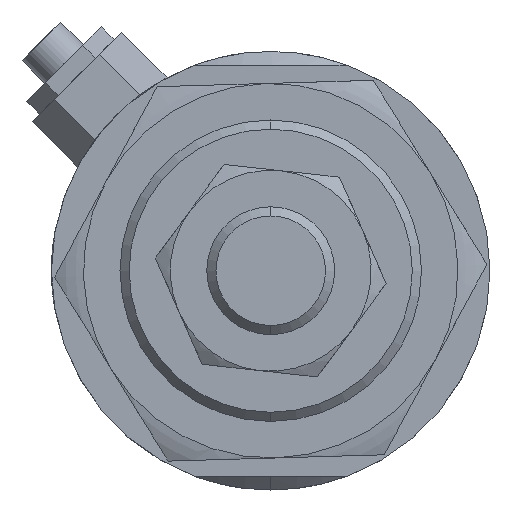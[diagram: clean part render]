
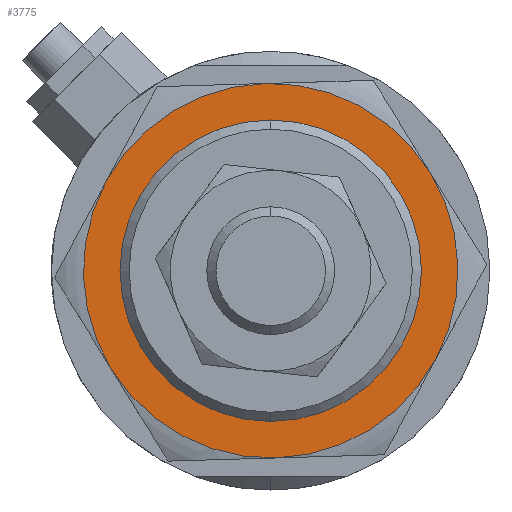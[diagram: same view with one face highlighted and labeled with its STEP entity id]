
A CAD part, left-side view. The second image highlights one B-rep face of the part: STEP entity #3775.
In plain terms, the highlighted planar face has unit normal (-1, 0, 0) as drawn and (0, 0, -1) by its records, which use the part's own axes.
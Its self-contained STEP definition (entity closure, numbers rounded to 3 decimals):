
#47 = EDGE_CURVE ( 'NONE', #3329, #3148, #2449, .T. ) ;
#54 = ORIENTED_EDGE ( 'NONE', *, *, #4624, .F. ) ;
#179 = EDGE_CURVE ( 'NONE', #4548, #3329, #2816, .T. ) ;
#333 = DIRECTION ( 'NONE',  ( 1., 0., 0. ) ) ;
#542 = ORIENTED_EDGE ( 'NONE', *, *, #4381, .T. ) ;
#544 = DIRECTION ( 'NONE',  ( 0., 0., 1. ) ) ;
#577 = DIRECTION ( 'NONE',  ( 0., 0., 1. ) ) ;
#597 = FACE_BOUND ( 'NONE', #2306, .T. ) ;
#691 = CARTESIAN_POINT ( 'NONE',  ( -10.25, 17.754, -5.5 ) ) ;
#697 = ORIENTED_EDGE ( 'NONE', *, *, #1637, .F. ) ;
#752 = DIRECTION ( 'NONE',  ( 1., 0., 0. ) ) ;
#1013 = DIRECTION ( 'NONE',  ( 0., 0., 1. ) ) ;
#1018 = FACE_OUTER_BOUND ( 'NONE', #4857, .T. ) ;
#1082 = CARTESIAN_POINT ( 'NONE',  ( 0., 0., -5.5 ) ) ;
#1222 = VERTEX_POINT ( 'NONE', #2486 ) ;
#1263 = AXIS2_PLACEMENT_3D ( 'NONE', #1942, #2603, #3249 ) ;
#1473 = ORIENTED_EDGE ( 'NONE', *, *, #2490, .T. ) ;
#1542 = CIRCLE ( 'NONE', #4813, 20.5 ) ;
#1548 = DIRECTION ( 'NONE',  ( 0., 0., 1. ) ) ;
#1589 = AXIS2_PLACEMENT_3D ( 'NONE', #2783, #577, #333 ) ;
#1609 = CARTESIAN_POINT ( 'NONE',  ( -10.25, -17.754, -5.5 ) ) ;
#1637 = EDGE_CURVE ( 'NONE', #1222, #3885, #1542, .T. ) ;
#1704 = DIRECTION ( 'NONE',  ( 1., 0., 0. ) ) ;
#1725 = AXIS2_PLACEMENT_3D ( 'NONE', #4312, #2097, #5000 ) ;
#1726 = DIRECTION ( 'NONE',  ( 0., 0., 1. ) ) ;
#1837 = VERTEX_POINT ( 'NONE', #2142 ) ;
#1879 = CIRCLE ( 'NONE', #1725, 20.5 ) ;
#1913 = AXIS2_PLACEMENT_3D ( 'NONE', #3647, #544, #3381 ) ;
#1942 = CARTESIAN_POINT ( 'NONE',  ( 0., 0., -5.5 ) ) ;
#2003 = CARTESIAN_POINT ( 'NONE',  ( 15.5, 0., -5.5 ) ) ;
#2097 = DIRECTION ( 'NONE',  ( 0., 0., 1. ) ) ;
#2142 = CARTESIAN_POINT ( 'NONE',  ( -20.5, 0., -5.5 ) ) ;
#2256 = EDGE_CURVE ( 'NONE', #1837, #4548, #4317, .T. ) ;
#2306 = EDGE_LOOP ( 'NONE', ( #1473, #542 ) ) ;
#2355 = CARTESIAN_POINT ( 'NONE',  ( 0., 0., -5.5 ) ) ;
#2384 = DIRECTION ( 'NONE',  ( 1., 0., 0. ) ) ;
#2448 = AXIS2_PLACEMENT_3D ( 'NONE', #1082, #1013, #752 ) ;
#2449 = CIRCLE ( 'NONE', #4760, 20.5 ) ;
#2486 = CARTESIAN_POINT ( 'NONE',  ( 10.25, 17.754, -5.5 ) ) ;
#2490 = EDGE_CURVE ( 'NONE', #3969, #2701, #3823, .T. ) ;
#2573 = DIRECTION ( 'NONE',  ( 1., 0., 0. ) ) ;
#2603 = DIRECTION ( 'NONE',  ( 0., 0., 1. ) ) ;
#2701 = VERTEX_POINT ( 'NONE', #2840 ) ;
#2783 = CARTESIAN_POINT ( 'NONE',  ( 0., 0., -5.5 ) ) ;
#2807 = DIRECTION ( 'NONE',  ( 0., 0., 1. ) ) ;
#2816 = CIRCLE ( 'NONE', #1913, 20.5 ) ;
#2821 = ORIENTED_EDGE ( 'NONE', *, *, #47, .F. ) ;
#2840 = CARTESIAN_POINT ( 'NONE',  ( -15.5, 0., -5.5 ) ) ;
#2912 = ORIENTED_EDGE ( 'NONE', *, *, #2256, .F. ) ;
#2993 = CARTESIAN_POINT ( 'NONE',  ( 20.5, 0., -5.5 ) ) ;
#3007 = CARTESIAN_POINT ( 'NONE',  ( 10.25, -17.754, -5.5 ) ) ;
#3146 = ORIENTED_EDGE ( 'NONE', *, *, #179, .F. ) ;
#3148 = VERTEX_POINT ( 'NONE', #2993 ) ;
#3249 = DIRECTION ( 'NONE',  ( 1., 0., 0. ) ) ;
#3329 = VERTEX_POINT ( 'NONE', #3007 ) ;
#3381 = DIRECTION ( 'NONE',  ( 1., 0., 0. ) ) ;
#3515 = ORIENTED_EDGE ( 'NONE', *, *, #4580, .F. ) ;
#3647 = CARTESIAN_POINT ( 'NONE',  ( 0., 0., -5.5 ) ) ;
#3775 = ADVANCED_FACE ( 'NONE', ( #597, #1018 ), #4374, .F. ) ;
#3823 = CIRCLE ( 'NONE', #2448, 15.5 ) ;
#3832 = CIRCLE ( 'NONE', #1263, 15.5 ) ;
#3885 = VERTEX_POINT ( 'NONE', #691 ) ;
#3919 = DIRECTION ( 'NONE',  ( 0., 0., 1. ) ) ;
#3949 = CARTESIAN_POINT ( 'NONE',  ( 0., 0., -5.5 ) ) ;
#3969 = VERTEX_POINT ( 'NONE', #2003 ) ;
#4021 = CARTESIAN_POINT ( 'NONE',  ( 0., 0., -5.5 ) ) ;
#4063 = CARTESIAN_POINT ( 'NONE',  ( 0., 0., -5.5 ) ) ;
#4188 = CIRCLE ( 'NONE', #4723, 20.5 ) ;
#4312 = CARTESIAN_POINT ( 'NONE',  ( 0., 0., -5.5 ) ) ;
#4317 = CIRCLE ( 'NONE', #1589, 20.5 ) ;
#4374 = PLANE ( 'NONE',  #4961 ) ;
#4381 = EDGE_CURVE ( 'NONE', #2701, #3969, #3832, .T. ) ;
#4548 = VERTEX_POINT ( 'NONE', #1609 ) ;
#4580 = EDGE_CURVE ( 'NONE', #3148, #1222, #1879, .T. ) ;
#4624 = EDGE_CURVE ( 'NONE', #3885, #1837, #4188, .T. ) ;
#4723 = AXIS2_PLACEMENT_3D ( 'NONE', #3949, #1726, #2384 ) ;
#4760 = AXIS2_PLACEMENT_3D ( 'NONE', #4021, #1548, #5013 ) ;
#4813 = AXIS2_PLACEMENT_3D ( 'NONE', #2355, #3919, #1704 ) ;
#4857 = EDGE_LOOP ( 'NONE', ( #3515, #2821, #3146, #2912, #54, #697 ) ) ;
#4961 = AXIS2_PLACEMENT_3D ( 'NONE', #4063, #2807, #2573 ) ;
#5000 = DIRECTION ( 'NONE',  ( 1., 0., 0. ) ) ;
#5013 = DIRECTION ( 'NONE',  ( 1., 0., 0. ) ) ;
